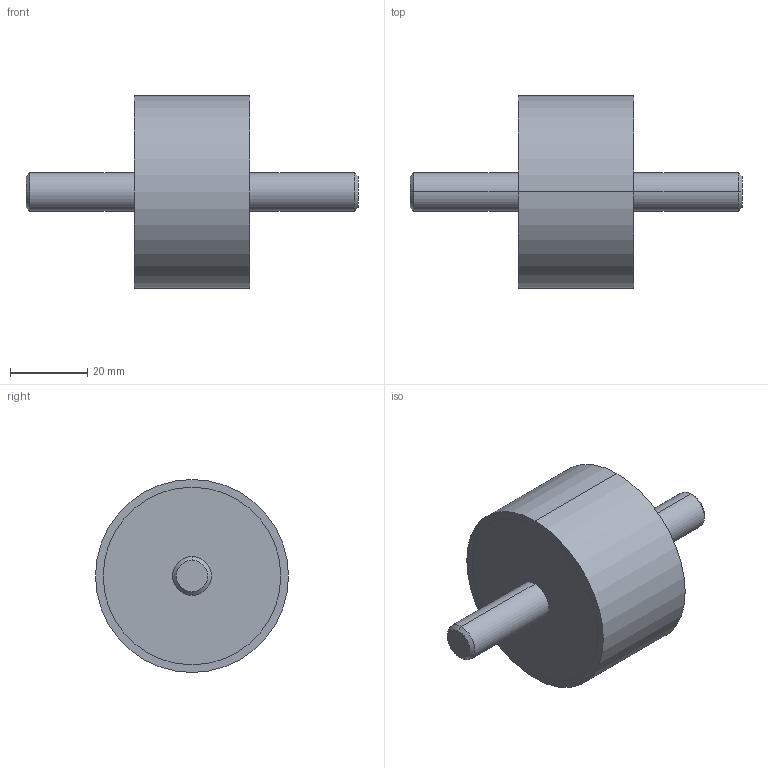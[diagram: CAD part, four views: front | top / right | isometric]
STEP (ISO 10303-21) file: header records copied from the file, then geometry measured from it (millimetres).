
FILE_DESCRIPTION (( 'STEP AP214' ), '1' );
FILE_NAME ('351-50-30-M10-SS-40.step', '2025-07-23T10:02:06', ( '' ), ( '' ), 'SwSTEP 2.0', 'SolidWorks 2022', '' );
FILE_SCHEMA (( 'AUTOMOTIVE_DESIGN' ));
Length unit declared in the file: millimetre
Products named in the file (1): 351-50-30-M10-SS-40
Bounding box: 86 x 50 x 50 mm (x, y, z)
Volume: 63244.9 mm3; surface area: 10364.9 mm2
Topology: 1 solids, 1 shells, 20 faces, 38 edges, 24 vertices
Faces by surface type: cylinder 10, plane 6, cone 4
Entity records: 636 total; most frequent: DIRECTION 104, CARTESIAN_POINT 83, ORIENTED_EDGE 76, AXIS2_PLACEMENT_3D 45, EDGE_CURVE 38, CIRCLE 24, EDGE_LOOP 24, VERTEX_POINT 24
